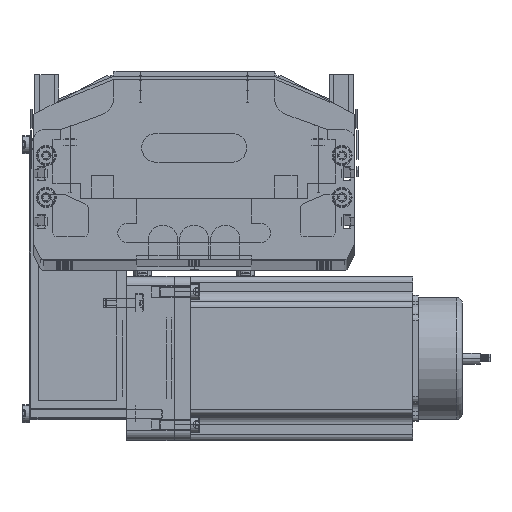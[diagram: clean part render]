
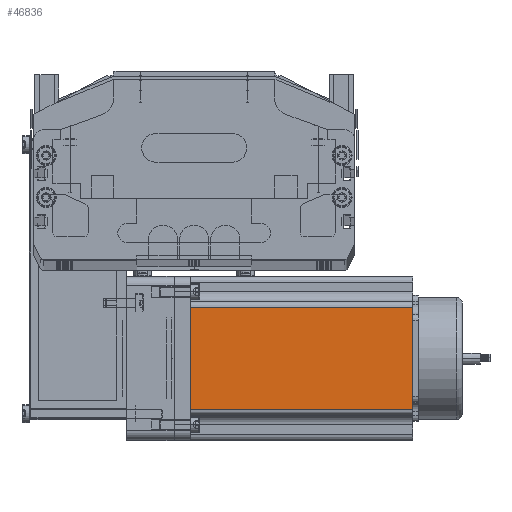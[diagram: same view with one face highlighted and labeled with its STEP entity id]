
A CAD part, top view. The second image highlights one B-rep face of the part: STEP entity #46836.
In plain terms, the highlighted planar face has unit normal (0, 0, 1) as drawn and (0, -1, 0) by its records, which use the part's own axes.
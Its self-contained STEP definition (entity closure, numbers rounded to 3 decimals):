
#46826 = ORIENTED_EDGE ( 'NONE', *, *, #46930, .F. ) ;
#46828 = EDGE_CURVE ( 'NONE', #46868, #46831, #64263, .T. ) ;
#46831 = VERTEX_POINT ( 'NONE', #64764 ) ;
#46836 = ADVANCED_FACE ( 'NONE', ( #64848 ), #64823, .F. ) ;
#46839 = VERTEX_POINT ( 'NONE', #64876 ) ;
#46841 = ORIENTED_EDGE ( 'NONE', *, *, #46925, .T. ) ;
#46853 = EDGE_LOOP ( 'NONE', ( #46841, #46927, #46826, #46936 ) ) ;
#46856 = VERTEX_POINT ( 'NONE', #64844 ) ;
#46868 = VERTEX_POINT ( 'NONE', #64860 ) ;
#46925 = EDGE_CURVE ( 'NONE', #46856, #46868, #64827, .T. ) ;
#46927 = ORIENTED_EDGE ( 'NONE', *, *, #46828, .T. ) ;
#46930 = EDGE_CURVE ( 'NONE', #46839, #46831, #64712, .T. ) ;
#46933 = EDGE_CURVE ( 'NONE', #46839, #46856, #64707, .T. ) ;
#46936 = ORIENTED_EDGE ( 'NONE', *, *, #46933, .T. ) ;
#64262 = CARTESIAN_POINT ( 'NONE',  ( 69.74, 0., 116.5 ) ) ;
#64263 = LINE ( 'NONE', #64262, #64280 ) ;
#64280 = VECTOR ( 'NONE', #64302, 1000. ) ;
#64302 = DIRECTION ( 'NONE',  ( 0., 0., 1. ) ) ;
#64701 = CARTESIAN_POINT ( 'NONE',  ( 0., 0., 0. ) ) ;
#64707 = LINE ( 'NONE', #64743, #64740 ) ;
#64709 = DIRECTION ( 'NONE',  ( 1., 0., 0. ) ) ;
#64710 = VECTOR ( 'NONE', #64709, 1000. ) ;
#64711 = CARTESIAN_POINT ( 'NONE',  ( 0., 0., 116.5 ) ) ;
#64712 = LINE ( 'NONE', #64711, #64710 ) ;
#64714 = DIRECTION ( 'NONE',  ( 1., 0., 0. ) ) ;
#64715 = VECTOR ( 'NONE', #64714, 1000. ) ;
#64740 = VECTOR ( 'NONE', #64741, 1000. ) ;
#64741 = DIRECTION ( 'NONE',  ( 0., 0., -1. ) ) ;
#64743 = CARTESIAN_POINT ( 'NONE',  ( 16.16, 0., 116.5 ) ) ;
#64764 = CARTESIAN_POINT ( 'NONE',  ( 69.74, 0., 116.5 ) ) ;
#64783 = AXIS2_PLACEMENT_3D ( 'NONE', #64803, #64791, #64831 ) ;
#64791 = DIRECTION ( 'NONE',  ( 0., 1., 0. ) ) ;
#64803 = CARTESIAN_POINT ( 'NONE',  ( 0., 0., 116.5 ) ) ;
#64823 = PLANE ( 'NONE',  #64783 ) ;
#64827 = LINE ( 'NONE', #64701, #64715 ) ;
#64831 = DIRECTION ( 'NONE',  ( 0., 0., 1. ) ) ;
#64844 = CARTESIAN_POINT ( 'NONE',  ( 16.16, 0., 0. ) ) ;
#64848 = FACE_OUTER_BOUND ( 'NONE', #46853, .T. ) ;
#64860 = CARTESIAN_POINT ( 'NONE',  ( 69.74, 0., 0. ) ) ;
#64876 = CARTESIAN_POINT ( 'NONE',  ( 16.16, 0., 116.5 ) ) ;
